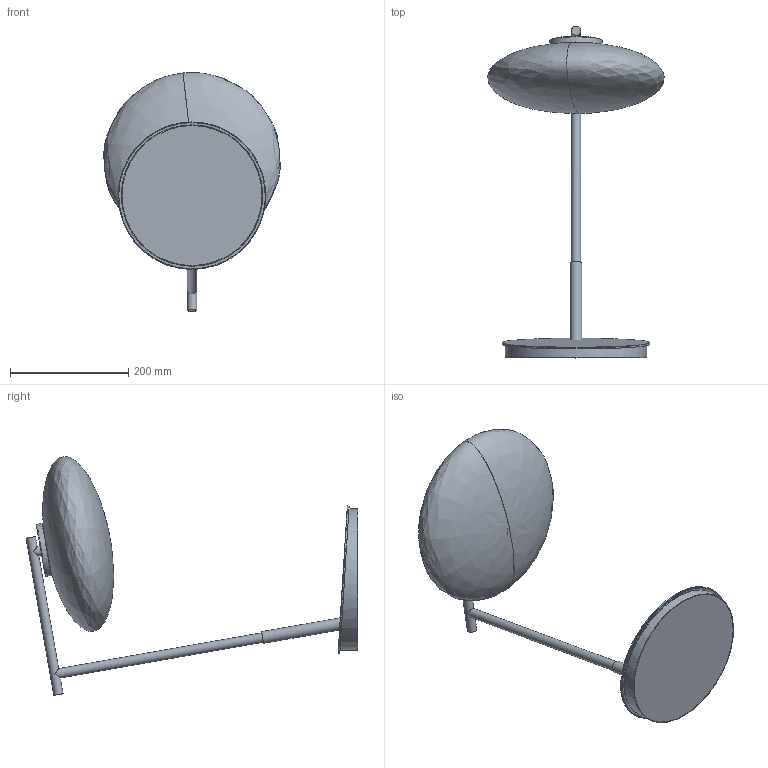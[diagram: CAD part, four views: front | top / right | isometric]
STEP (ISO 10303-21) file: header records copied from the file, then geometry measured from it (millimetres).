
FILE_DESCRIPTION(/* description */ (''),/* implementation_level */ '2;1');
FILE_NAME(/* name */ 'C:\Users\STEFANO\Desktop\3D SEM\1307-03 - mam tavolo\Assieme2.stp',/* time_stamp */ '2019-09-26T09:27:59+02:00',/* author */ ('STEFANO'),/* organization */ (''),/* preprocessor_version */ 'ST-DEVELOPER v17',/* originating_system */ 'Autodesk Inventor 2019',/* authorisation */ '');
FILE_SCHEMA (('AUTOMOTIVE_DESIGN { 1 0 10303 214 3 1 1 }'));
Length unit declared in the file: millimetre
Products named in the file (3): Assieme2; Parte1; Parte1_1
Assembly tree (2 placements, depth 2):
  Assieme2
    Parte1
    Parte1_1
Bounding box: 298.72 x 561.41 x 403.86 mm (x, y, z)
Volume: 1504631.7 mm3; surface area: 517164.8 mm2
Topology: 2 solids, 2 shells, 35 faces, 105 edges, 78 vertices
Faces by surface type: cylinder 13, plane 12, bspline 8, torus 2
Full cylindrical faces by diameter (mm): 16 x3, 20 x1, 83 x1, 85 x1, 87.5 x1, 89.5 x1, 237 x2, 239 x1, 248 x1, 250 x1
Entity records: 2937 total; most frequent: CARTESIAN_POINT 1892, DIRECTION 205, ORIENTED_EDGE 202, EDGE_CURVE 101, AXIS2_PLACEMENT_3D 94, VERTEX_POINT 78, CIRCLE 49, EDGE_LOOP 43
